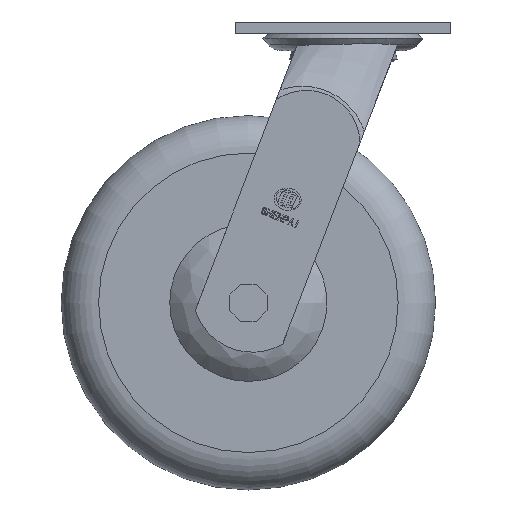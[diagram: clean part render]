
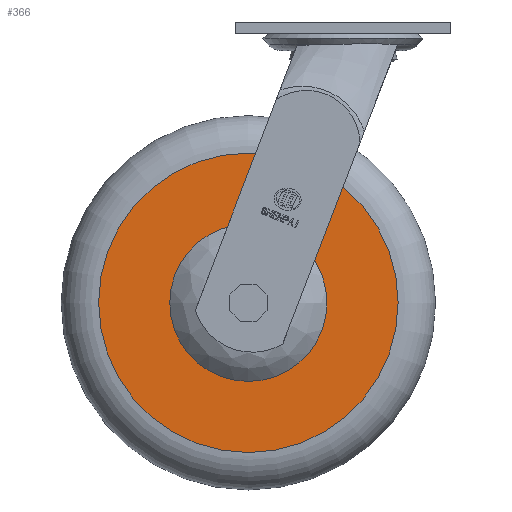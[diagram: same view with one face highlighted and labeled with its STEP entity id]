
A CAD part, front view. The second image highlights one B-rep face of the part: STEP entity #366.
In plain terms, the highlighted planar face has unit normal (0, -1, 0).
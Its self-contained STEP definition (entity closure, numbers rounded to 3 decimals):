
#366=ADVANCED_FACE('',(#904,#905),#667,.T.);
#667=PLANE('',#5251);
#904=FACE_BOUND('',#1062,.T.);
#905=FACE_BOUND('',#1063,.T.);
#1062=EDGE_LOOP('',(#2007));
#1063=EDGE_LOOP('',(#2008));
#1467=CIRCLE('',#5249,80.);
#1468=CIRCLE('',#5250,42.);
#2007=ORIENTED_EDGE('',*,*,#3998,.T.);
#2008=ORIENTED_EDGE('',*,*,#3999,.T.);
#3481=VERTEX_POINT('',#7414);
#3482=VERTEX_POINT('',#7416);
#3998=EDGE_CURVE('',#3481,#3481,#1467,.T.);
#3999=EDGE_CURVE('',#3482,#3482,#1468,.T.);
#5249=AXIS2_PLACEMENT_3D('',#7413,#5719,#5720);
#5250=AXIS2_PLACEMENT_3D('',#7415,#5721,#5722);
#5251=AXIS2_PLACEMENT_3D('',#7417,#5723,#5724);
#5719=DIRECTION('',(0.,-1.,0.));
#5720=DIRECTION('',(0.,0.,-1.));
#5721=DIRECTION('',(0.,1.,0.));
#5722=DIRECTION('',(0.,0.,-1.));
#5723=DIRECTION('',(0.,-1.,0.));
#5724=DIRECTION('',(0.,0.,1.));
#7413=CARTESIAN_POINT('',(-50.648,-31.,-150.));
#7414=CARTESIAN_POINT('',(-50.648,-31.,-230.));
#7415=CARTESIAN_POINT('',(-50.648,-31.,-150.));
#7416=CARTESIAN_POINT('',(-50.648,-31.,-192.));
#7417=CARTESIAN_POINT('',(-50.648,-31.,-89.876));
